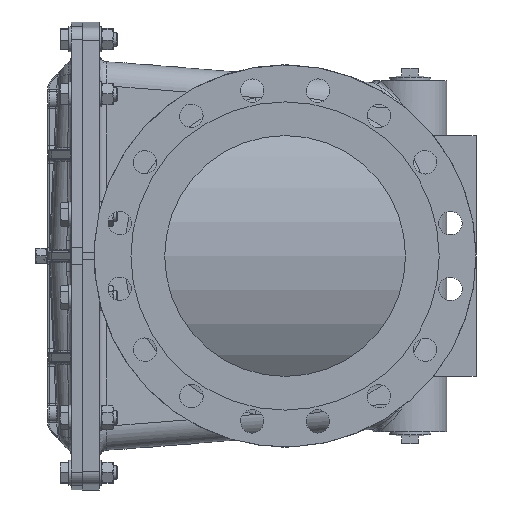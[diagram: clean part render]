
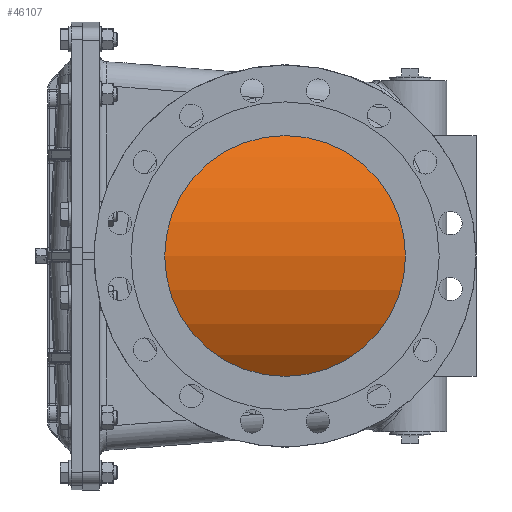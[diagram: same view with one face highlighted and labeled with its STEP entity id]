
A CAD part, left-side view. The second image highlights one B-rep face of the part: STEP entity #46107.
In plain terms, the highlighted cylindrical face has radius 289 mm (diameter 578 mm), a partial arc.
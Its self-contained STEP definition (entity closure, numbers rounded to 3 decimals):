
#4261=LINE('',#92252,#7678);
#4262=LINE('',#92254,#7679);
#7678=VECTOR('',#59775,10.);
#7679=VECTOR('',#59778,10.);
#9823=CYLINDRICAL_SURFACE('',#50227,289.);
#11906=FACE_OUTER_BOUND('',#14902,.T.);
#14902=EDGE_LOOP('',(#39469,#39470,#39471,#39472));
#18435=CIRCLE('',#50221,289.);
#18436=CIRCLE('',#50224,289.);
#21834=VERTEX_POINT('',#92222);
#21838=VERTEX_POINT('',#92231);
#21841=VERTEX_POINT('',#92241);
#21842=VERTEX_POINT('',#92243);
#27900=EDGE_CURVE('',#21834,#21838,#18435,.T.);
#27905=EDGE_CURVE('',#21842,#21841,#18436,.T.);
#27910=EDGE_CURVE('',#21838,#21842,#4261,.T.);
#27911=EDGE_CURVE('',#21834,#21841,#4262,.T.);
#39469=ORIENTED_EDGE('',*,*,#27900,.T.);
#39470=ORIENTED_EDGE('',*,*,#27910,.T.);
#39471=ORIENTED_EDGE('',*,*,#27905,.T.);
#39472=ORIENTED_EDGE('',*,*,#27911,.F.);
#46107=ADVANCED_FACE('',(#11906),#9823,.T.);
#50221=AXIS2_PLACEMENT_3D('',#92233,#59756,#59757);
#50224=AXIS2_PLACEMENT_3D('',#92244,#59766,#59767);
#50227=AXIS2_PLACEMENT_3D('',#92253,#59776,#59777);
#59756=DIRECTION('center_axis',(0.,0.,
1.));
#59757=DIRECTION('ref_axis',(0.64,0.768,0.));
#59766=DIRECTION('center_axis',(0.,0.,-1.));
#59767=DIRECTION('ref_axis',(0.64,0.768,0.));
#59775=DIRECTION('',(0.,0.,1.));
#59776=DIRECTION('center_axis',(0.,0.,1.));
#59777=DIRECTION('ref_axis',(0.64,0.768,0.));
#59778=DIRECTION('',(0.,0.,1.));
#92222=CARTESIAN_POINT('',(185.032,3.,12.));
#92231=CARTESIAN_POINT('',(-185.032,3.,12.));
#92233=CARTESIAN_POINT('Origin',(0.,-219.,12.));
#92241=CARTESIAN_POINT('',(185.032,3.,510.));
#92243=CARTESIAN_POINT('',(-185.032,3.,510.));
#92244=CARTESIAN_POINT('Origin',(0.,-219.,510.));
#92252=CARTESIAN_POINT('',(-185.032,3.,0.));
#92253=CARTESIAN_POINT('Origin',(0.,-219.,0.));
#92254=CARTESIAN_POINT('',(185.032,3.,0.));
